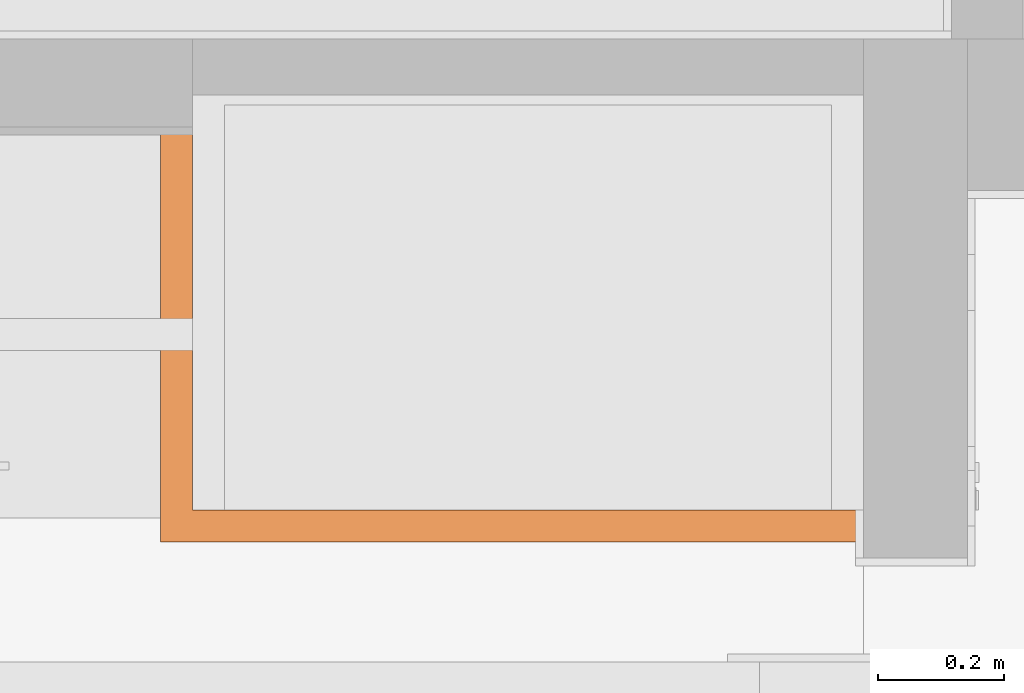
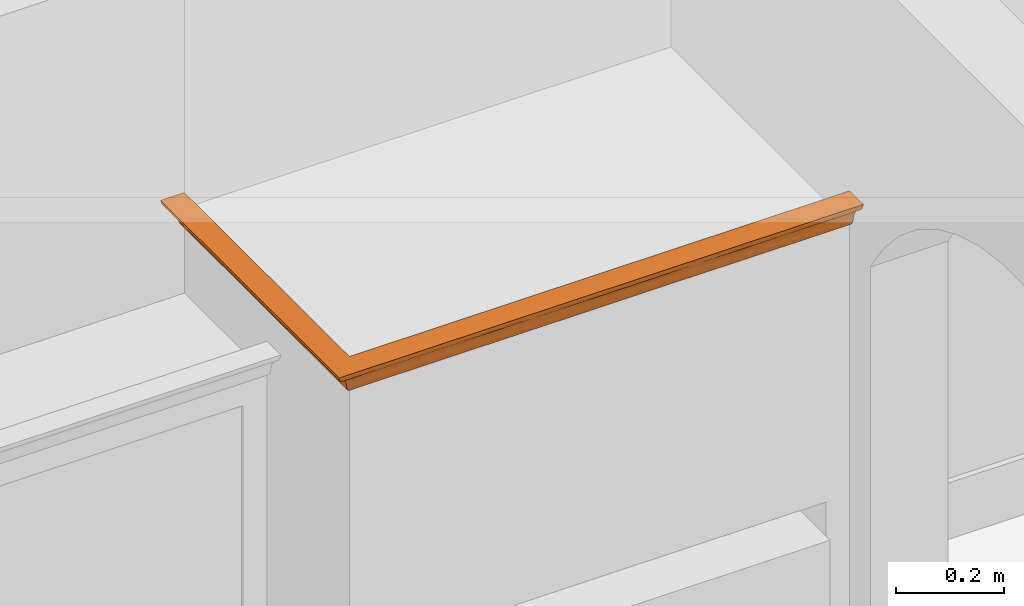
# One storey, part 79 of 81: 1 proxy.
"""IFC2X3 building model written with IfcOpenShell, lengths in feet."""

from ifc_helpers import new_model, entity, si_unit, converted_unit, derived_unit, direction, frame, origin, place, context, subcontext, project, spatial, faceted_brep, source, transform, mapped, material, type_object, type_shapes, element, save


model = new_model("IFC2X3")

# Units and contexts
model_context = context("Model", 3, precision=0.0001, world=origin(), true_north=direction((6.12303176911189e-17, 1.0)))
body_context = subcontext(model_context, "Body", "Model", "MODEL_VIEW")
ifc_project = project(units=[converted_unit("LENGTHUNIT", "FOOT", entity("IfcRatioMeasure", 0.3048), si_unit("LENGTHUNIT", "METRE"), dimensions=[1, 0, 0, 0, 0, 0, 0]), converted_unit("AREAUNIT", "SQUARE FOOT", entity("IfcRatioMeasure", 0.09290304), si_unit("AREAUNIT", "SQUARE_METRE"), dimensions=[2, 0, 0, 0, 0, 0, 0]), converted_unit("VOLUMEUNIT", "CUBIC FOOT", entity("IfcRatioMeasure", 0.028316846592), si_unit("VOLUMEUNIT", "CUBIC_METRE"), dimensions=[3, 0, 0, 0, 0, 0, 0]), converted_unit("PLANEANGLEUNIT", "DEGREE", entity("IfcRatioMeasure", 0.0174532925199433), si_unit("PLANEANGLEUNIT", "RADIAN"), dimensions=[0, 0, 0, 0, 0, 0, 0]), si_unit("MASSUNIT", "GRAM", prefix="KILO"), derived_unit("MASSDENSITYUNIT", [(si_unit("MASSUNIT", "GRAM", prefix="KILO"), 1), (si_unit("LENGTHUNIT", "METRE"), -3)]), derived_unit("MOMENTOFINERTIAUNIT", [(si_unit("LENGTHUNIT", "METRE"), 4)]), si_unit("TIMEUNIT", "SECOND"), si_unit("FREQUENCYUNIT", "HERTZ"), si_unit("THERMODYNAMICTEMPERATUREUNIT", "DEGREE_CELSIUS"), derived_unit("THERMALTRANSMITTANCEUNIT", [(si_unit("MASSUNIT", "GRAM", prefix="KILO"), 1), (si_unit("THERMODYNAMICTEMPERATUREUNIT", "KELVIN"), -1), (si_unit("TIMEUNIT", "SECOND"), -3)]), derived_unit("VOLUMETRICFLOWRATEUNIT", [(si_unit("LENGTHUNIT", "METRE"), 3), (si_unit("TIMEUNIT", "SECOND"), -1)]), si_unit("ELECTRICCURRENTUNIT", "AMPERE"), si_unit("ELECTRICVOLTAGEUNIT", "VOLT"), si_unit("POWERUNIT", "WATT"), si_unit("FORCEUNIT", "NEWTON"), si_unit("ILLUMINANCEUNIT", "LUX"), si_unit("LUMINOUSFLUXUNIT", "LUMEN"), si_unit("LUMINOUSINTENSITYUNIT", "CANDELA"), derived_unit("USERDEFINED", [(si_unit("MASSUNIT", "GRAM", prefix="KILO"), -1), (si_unit("LENGTHUNIT", "METRE"), -2), (si_unit("TIMEUNIT", "SECOND"), 3), (si_unit("LUMINOUSFLUXUNIT", "LUMEN"), 1)]), derived_unit("LINEARVELOCITYUNIT", [(si_unit("LENGTHUNIT", "METRE"), 1), (si_unit("TIMEUNIT", "SECOND"), -1)]), si_unit("PRESSUREUNIT", "PASCAL"), derived_unit("USERDEFINED", [(si_unit("LENGTHUNIT", "METRE"), -2), (si_unit("MASSUNIT", "GRAM", prefix="KILO"), 1), (si_unit("TIMEUNIT", "SECOND"), -2)]), derived_unit("LINEARFORCEUNIT", [(si_unit("MASSUNIT", "GRAM", prefix="KILO"), 1), (si_unit("LENGTHUNIT", "METRE"), 1), (si_unit("TIMEUNIT", "SECOND"), -2), (si_unit("LENGTHUNIT", "METRE"), -1)]), derived_unit("PLANARFORCEUNIT", [(si_unit("MASSUNIT", "GRAM", prefix="KILO"), 1), (si_unit("LENGTHUNIT", "METRE"), 1), (si_unit("TIMEUNIT", "SECOND"), -2), (si_unit("LENGTHUNIT", "METRE"), -2)])], contexts=[model_context])

# Site, building, storey
site_placement = place(None, origin())
site = spatial("IfcSite", under=ifc_project, at=site_placement, Name="Default", CompositionType="ELEMENT")
building_placement = place(site_placement, origin())
building = spatial("IfcBuilding", under=site, at=building_placement, CompositionType="ELEMENT")
storey_placement = place(building_placement, origin())
storey = spatial("IfcBuildingStorey", under=building, at=storey_placement, Name="First floor", CompositionType="ELEMENT", Elevation=0.0)

# Proxy
ifc_material = material(Name="Default New Material")
building_element_proxy_type = type_object("IfcBuildingElementProxyType", Name="Generic Models 34:Generic Models 28", PredefinedType="NOTDEFINED", material=ifc_material)
shared_shape = source(origin(), body_context, "Body", "Brep", [
    faceted_brep([(0.154525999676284, 2.17190049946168, 0.0179947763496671), (0.140565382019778, 2.17190049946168, 0.0344208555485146), (0.130772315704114, 2.17190049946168, 0.0536253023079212), (0.125675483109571, 2.17190049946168, 0.0745713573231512), (0.117492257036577, 2.17190049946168, 0.108201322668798), (0.10176898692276, 2.17190049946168, 0.139035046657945), (0.0793544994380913, 2.17190049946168, 0.165407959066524), (0.0514588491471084, 2.17190049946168, 0.185896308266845), (0.0340843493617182, 2.17190049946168, 0.198657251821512), (0.0201237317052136, 2.17190049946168, 0.215083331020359), (0.0103306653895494, 2.17190049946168, 0.234287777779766), (0.00523383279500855, 2.17190049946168, 0.255233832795), (0.171900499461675, 2.17190049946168, 0.255233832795), (0.171900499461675, 2.17190049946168, 0.00523383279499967), (3.67190049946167, 0.171900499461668, 0.00523383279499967), (3.67190049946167, 0.171900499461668, 0.255233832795), (3.67190049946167, 0.00523383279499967, 0.255233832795), (3.67190049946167, 0.0103306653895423, 0.234287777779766), (3.67190049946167, 0.0201237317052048, 0.215083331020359), (3.67190049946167, 0.0340843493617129, 0.198657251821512), (3.67190049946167, 0.0514588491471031, 0.185896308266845), (3.67190049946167, 0.0793544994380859, 0.165407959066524), (3.67190049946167, 0.101768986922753, 0.139035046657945), (3.67190049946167, 0.11749225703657, 0.108201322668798), (3.67190049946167, 0.125675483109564, 0.0745713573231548), (3.67190049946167, 0.130772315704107, 0.0536253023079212), (3.67190049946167, 0.140565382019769, 0.0344208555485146), (3.67190049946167, 0.154525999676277, 0.0179947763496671), (0.146689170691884, 0.412211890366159, 0.0262483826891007), (0.154525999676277, 0.154525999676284, 0.0179947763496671), (0.140565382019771, 0.140565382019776, 0.0344208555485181), (0.171900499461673, 1.86730195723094, 0.00523383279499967), (0.159274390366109, 1.71500289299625, 0.0138636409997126), (0.171900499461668, 0.562703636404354, 0.00523383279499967), (0.157214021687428, 0.583478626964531, 0.015586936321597), (0.15719830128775, 0.896596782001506, 0.0156004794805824), (0.135109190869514, 1.91205592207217, 0.0437376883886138), (0.171900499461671, 1.56270363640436, 0.00523383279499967), (0.134844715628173, 0.513102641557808, 0.044260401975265), (0.146232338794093, 0.734902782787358, 0.0267970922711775), (0.129443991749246, 1.75268181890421, 0.0574626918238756), (0.125675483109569, 1.75798510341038, 0.0745713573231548), (0.129199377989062, 1.4485269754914, 0.0582343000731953), (0.171900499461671, 1.25810531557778, 0.00523383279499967), (0.171900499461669, 0.953506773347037, 0.00523383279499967), (0.125675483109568, 0.734872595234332, 0.0745713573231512), (0.132705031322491, 1.05011708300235, 0.0488282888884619), (0.147067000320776, 1.79424866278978, 0.0258009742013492), (0.135109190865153, 1.59330771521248, 0.0437376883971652), (0.014667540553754, 1.89053000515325, 0.224400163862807), (0.0266253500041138, 1.78021655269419, 0.206463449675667), (0.0146675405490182, 1.55400278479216, 0.224400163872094), (0.125675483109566, 0.430274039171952, 0.0745713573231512), (0.130772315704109, 0.130772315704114, 0.0536253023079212), (0.148983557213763, 1.26330170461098, 0.02361623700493), (0.171900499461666, 0.171900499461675, 0.00523383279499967), (0.125675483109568, 1.03947069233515, 0.0745713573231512), (0.125675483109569, 1.34406924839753, 0.0745713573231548), (0.125675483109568, 1.39998506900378, 0.0745713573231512), (0.125675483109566, 0.125675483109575, 0.0745713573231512), (0.125675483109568, 0.762830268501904, 0.0745713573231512), (0.110529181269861, 1.56350760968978, 0.124076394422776), (0.0913303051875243, 1.75146019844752, 0.152874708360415), (0.120222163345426, 1.0814076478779, 0.100141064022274), (0.110052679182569, 0.780837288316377, 0.125002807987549), (0.120441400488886, 1.53672839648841, 0.0994207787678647), (0.0793544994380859, 0.079354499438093, 0.165407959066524), (0.0514588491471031, 0.0514588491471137, 0.185896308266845), (0.0700563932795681, 0.520712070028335, 0.173380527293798), (0.11749225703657, 0.117492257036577, 0.108201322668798), (0.101768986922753, 0.10176898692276, 0.139035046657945), (0.120055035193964, 0.594443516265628, 0.100681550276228), (0.090560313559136, 0.625433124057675, 0.153773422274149), (0.0745061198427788, 1.49425190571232, 0.169730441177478), (0.0514588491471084, 1.49763738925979, 0.185896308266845), (0.0514588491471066, 1.56270350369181, 0.185896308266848), (0.0514588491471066, 1.86730189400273, 0.185896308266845), (0.0913303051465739, 1.23704360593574, 0.152874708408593), (0.0733959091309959, 1.00364569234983, 0.170668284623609), (0.0514588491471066, 0.82337416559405, 0.185896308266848), (0.0514588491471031, 0.953506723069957, 0.185896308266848), (0.0514588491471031, 1.25810511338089, 0.185896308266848), (0.0514588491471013, 0.50248289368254, 0.185896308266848), (0.0262187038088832, 0.312037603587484, 0.206945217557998), (0.0340843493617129, 0.03408434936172, 0.198657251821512), (0.0201237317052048, 0.0201237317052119, 0.215083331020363), (0.0143937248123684, 0.406077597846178, 0.224941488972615), (0.0103306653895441, 0.0103306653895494, 0.234287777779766), (0.00523383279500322, 0.30983220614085, 0.255233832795), (0.0366299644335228, 0.491634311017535, 0.196372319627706), (0.0372594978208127, 0.817583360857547, 0.195832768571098), (0.0297505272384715, 1.23502228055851, 0.20296923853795), (0.0262226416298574, 0.950205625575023, 0.206940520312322), (0.0179141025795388, 1.18498354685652, 0.218562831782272), (0.02573845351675, 0.65154953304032, 0.20752285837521), (0.0119679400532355, 0.929934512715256, 0.23017640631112), (0.005233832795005, 1.69776369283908, 0.255233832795), (0.00805757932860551, 1.88853460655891, 0.241248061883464), (0.00849853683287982, 1.60269661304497, 0.239741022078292), (0.00523383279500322, 0.614430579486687, 0.255233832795), (0.038915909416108, 1.71500289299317, 0.19445865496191), (0.00968593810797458, 1.24976372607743, 0.236082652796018), (0.00523383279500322, 0.91902895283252, 0.255233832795), (0.00523383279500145, 0.00523383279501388, 0.255233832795), (0.005233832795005, 1.22362732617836, 0.255233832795), (0.309832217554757, 0.00523383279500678, 0.255233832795), (0.614430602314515, 0.00523383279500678, 0.255233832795), (0.919028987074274, 0.00523383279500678, 0.255233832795), (1.22362737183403, 0.00523383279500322, 0.255233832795), (1.53109718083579, 0.00523383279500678, 0.255233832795), (1.83856698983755, 0.00523383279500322, 0.255233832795), (2.14603679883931, 0.00523383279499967, 0.255233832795), (2.45350660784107, 0.00523383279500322, 0.255233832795), (2.75810499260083, 0.00523383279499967, 0.255233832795), (3.06270337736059, 0.00523383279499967, 0.255233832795), (3.36730211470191, 0.00523383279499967, 0.255233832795), (0.171900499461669, 0.171900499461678, 0.255233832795), (3.1435240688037, 0.147067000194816, 0.0258009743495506), (3.31095963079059, 0.135109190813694, 0.0437376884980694), (3.06270361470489, 0.171900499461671, 0.00523383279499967), (3.21500289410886, 0.15932241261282, 0.0138246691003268), (2.81638518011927, 0.156718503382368, 0.0160167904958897), (0.476498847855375, 0.171900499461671, 0.00523383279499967), (3.36730196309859, 0.171900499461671, 0.00523383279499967), (2.32638728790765, 0.130860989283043, 0.0533871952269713), (2.17614749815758, 0.125675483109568, 0.0745713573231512), (1.94989525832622, 0.133522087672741, 0.0470066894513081), (3.02356097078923, 0.133440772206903, 0.0471833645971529), (0.463691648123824, 0.14661600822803, 0.0263356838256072), (0.548538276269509, 0.134820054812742, 0.0443095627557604), (1.62142854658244, 0.132009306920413, 0.0504679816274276), (1.89878815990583, 0.125675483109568, 0.0745713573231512), (1.62142882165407, 0.125675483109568, 0.0745713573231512), (0.590002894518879, 0.158192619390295, 0.014755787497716), (1.10221167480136, 0.155849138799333, 0.0167859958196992), (1.39534246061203, 0.159103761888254, 0.0140025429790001), (1.43907823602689, 0.146302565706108, 0.0267121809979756), (3.06270400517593, 0.125675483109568, 0.0745713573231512), (3.21500289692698, 0.128829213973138, 0.0594490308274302), (3.3673022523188, 0.125675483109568, 0.0745713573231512), (1.1350935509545, 0.143547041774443, 0.0302072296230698), (0.829792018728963, 0.146098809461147, 0.0269591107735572), (1.05455715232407, 0.132074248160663, 0.0503111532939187), (0.73487231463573, 0.125675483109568, 0.0745713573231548), (0.430274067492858, 0.125675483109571, 0.0745713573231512), (1.80115668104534, 0.142334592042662, 0.0318611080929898), (1.37895814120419, 0.136566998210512, 0.040993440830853), (2.45350691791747, 0.171900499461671, 0.00523383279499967), (2.75810526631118, 0.171900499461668, 0.00523383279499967), (0.703506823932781, 0.171900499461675, 0.00523383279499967), (0.969309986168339, 0.171900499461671, 0.00523383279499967), (1.33737549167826, 0.129591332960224, 0.0570088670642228), (1.03947089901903, 0.125675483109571, 0.0745713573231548), (2.17614744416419, 0.140565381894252, 0.0344208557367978), (2.11185051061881, 0.156507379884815, 0.016201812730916), (2.45350717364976, 0.125675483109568, 0.0745713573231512), (2.72982651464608, 0.134048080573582, 0.0458866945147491), (2.12806964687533, 0.125675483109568, 0.0745713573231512), (2.46520773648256, 0.149891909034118, 0.0226274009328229), (1.2351131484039, 0.171900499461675, 0.00523383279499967), (1.5397114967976, 0.171900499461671, 0.00523383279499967), (2.75110619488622, 0.143963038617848, 0.0296570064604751), (2.47889559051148, 0.139006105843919, 0.0368402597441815), (0.897590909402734, 0.125675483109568, 0.0745713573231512), (1.6920108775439, 0.156549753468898, 0.0161645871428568), (1.84431003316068, 0.171900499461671, 0.00523383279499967), (2.14890856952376, 0.171900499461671, 0.00523383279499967), (1.51283027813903, 0.125675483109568, 0.0745713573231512), (1.34406948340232, 0.125675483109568, 0.0745713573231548), (2.75810575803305, 0.125675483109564, 0.0745713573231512), (2.8999850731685, 0.125675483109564, 0.0745713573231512), (0.527167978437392, 0.0907023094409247, 0.153608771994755), (1.66308301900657, 0.112574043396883, 0.119907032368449), (0.985340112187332, 0.11958765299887, 0.102155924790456), (0.734179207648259, 0.11008601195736, 0.12493851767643), (3.21497363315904, 0.121190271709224, 0.0968548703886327), (1.57346057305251, 0.0789672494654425, 0.165767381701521), (2.24763735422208, 0.0514588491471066, 0.185896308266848), (2.1489084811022, 0.0514588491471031, 0.185896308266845), (1.84431011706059, 0.0514588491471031, 0.185896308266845), (1.59528967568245, 0.0514588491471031, 0.185896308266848), (1.53971175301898, 0.0514588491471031, 0.185896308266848), (1.23511338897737, 0.0514588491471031, 0.185896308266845), (0.939199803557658, 0.0514588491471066, 0.185896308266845), (0.823374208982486, 0.0514588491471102, 0.185896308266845), (1.20534352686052, 0.109624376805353, 0.125822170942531), (2.75765404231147, 0.120393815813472, 0.0995782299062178), (3.21607661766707, 0.110529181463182, 0.124076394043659), (2.56238160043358, 0.0943703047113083, 0.149179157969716), (3.0402874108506, 0.0913303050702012, 0.152874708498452), (2.57962437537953, 0.072306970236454, 0.171570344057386), (3.0344032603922, 0.0723823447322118, 0.171508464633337), (0.643286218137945, 0.0514588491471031, 0.185896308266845), (0.356057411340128, 0.0514588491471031, 0.185896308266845), (3.36730193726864, 0.0514588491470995, 0.185896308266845), (1.05487944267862, 0.0899369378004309, 0.154490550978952), (2.18162500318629, 0.104475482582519, 0.134823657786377), (2.67235813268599, 0.110529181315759, 0.124076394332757), (2.20138181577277, 0.118023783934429, 0.106744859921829), (2.13666000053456, 0.0854415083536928, 0.159402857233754), (1.50340175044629, 0.0983421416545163, 0.143957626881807), (2.89998513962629, 0.0514588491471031, 0.185896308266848), (2.75810520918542, 0.0514588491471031, 0.185896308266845), (2.45350684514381, 0.0514588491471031, 0.185896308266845), (3.06270357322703, 0.0514588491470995, 0.185896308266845), (3.1435240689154, 0.0266253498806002, 0.206463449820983), (3.21500289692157, 0.00838756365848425, 0.24011150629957), (3.2150028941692, 0.0388807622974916, 0.194487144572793), (2.81638518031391, 0.0362768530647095, 0.196679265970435), (3.31095963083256, 0.0146675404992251, 0.224400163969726), (0.446899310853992, 0.0143653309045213, 0.224998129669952), (0.357615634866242, 0.0261539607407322, 0.207022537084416), (1.69517127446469, 0.00893188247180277, 0.238345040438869), (2.01793694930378, 0.0101154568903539, 0.234874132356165), (1.06623920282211, 0.0218861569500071, 0.212533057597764), (0.756584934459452, 0.0255908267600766, 0.207702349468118), (1.08715646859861, 0.0345032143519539, 0.198269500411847), (0.940463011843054, 0.0114491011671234, 0.231418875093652), (1.38966443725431, 0.0113512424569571, 0.231659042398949), (1.40063767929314, 0.0375756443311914, 0.195565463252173), (2.14603703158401, 0.0201237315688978, 0.215083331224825), (1.73881601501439, 0.0172658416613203, 0.219652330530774), (1.86090576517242, 0.0317734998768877, 0.200885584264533), (3.02356097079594, 0.0129991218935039, 0.227845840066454), (2.53316499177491, 0.0382170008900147, 0.195030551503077), (0.798004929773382, 0.0377354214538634, 0.19543128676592), (1.38413899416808, 0.0245312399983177, 0.209018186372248), (2.37052363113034, 0.0121142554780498, 0.229834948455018), (2.72982651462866, 0.0136064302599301, 0.22654916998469), (2.52092873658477, 0.0235926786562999, 0.21022603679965), (2.25692092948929, 0.0348523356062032, 0.197949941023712), (0.499671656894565, 0.0378782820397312, 0.19531183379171), (2.84117786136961, 0.0226727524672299, 0.211451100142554)], [[[0, 1, 2, 3, 4, 5, 6, 7, 8, 9, 10, 11, 12, 13]], [[14, 15, 16, 17, 18, 19, 20, 21, 22, 23, 24, 25, 26, 27]], [[28, 29, 30]], [[0, 31, 32]], [[33, 34, 35]], [[28, 34, 29]], [[36, 2, 1]], [[37, 32, 31]], [[28, 38, 39]], [[2, 40, 3]], [[41, 40, 42]], [[33, 35, 43, 44]], [[38, 45, 46]], [[36, 47, 48]], [[49, 50, 51]], [[40, 2, 36]], [[45, 38, 52]], [[47, 1, 0]], [[30, 53, 38]], [[48, 47, 54]], [[46, 39, 38]], [[54, 39, 46]], [[32, 54, 47]], [[32, 37, 54]], [[38, 53, 52]], [[29, 34, 55]], [[42, 46, 56]], [[42, 56, 57, 58, 41]], [[54, 46, 48]], [[0, 13, 31]], [[0, 32, 47]], [[53, 59, 52]], [[38, 28, 30]], [[34, 28, 39]], [[34, 39, 35]], [[34, 33, 55]], [[39, 54, 35]], [[35, 54, 43]], [[47, 36, 1]], [[40, 36, 48]], [[40, 48, 42]], [[40, 41, 3]], [[48, 46, 42]], [[46, 45, 60, 56]], [[54, 37, 43]], [[5, 61, 62]], [[61, 63, 64]], [[61, 5, 4]], [[65, 4, 3]], [[66, 67, 68]], [[64, 69, 70]], [[71, 60, 45, 52, 59]], [[70, 72, 64]], [[73, 74, 75, 76, 7]], [[61, 64, 77]], [[77, 64, 72]], [[62, 77, 73]], [[70, 66, 72]], [[78, 72, 68]], [[61, 65, 63]], [[62, 6, 5]], [[73, 78, 74]], [[63, 58, 57, 56, 60]], [[73, 77, 78]], [[71, 63, 60]], [[73, 7, 6]], [[77, 62, 61]], [[62, 73, 6]], [[78, 79, 80, 81, 74]], [[79, 78, 68]], [[78, 77, 72]], [[68, 67, 82, 79]], [[66, 68, 72]], [[65, 58, 63]], [[64, 63, 71]], [[71, 69, 64]], [[69, 71, 59]], [[65, 3, 41, 58]], [[65, 61, 4]], [[83, 84, 85]], [[86, 87, 88]], [[82, 89, 90]], [[51, 50, 91]], [[49, 10, 9]], [[92, 93, 91]], [[83, 86, 94]], [[84, 89, 67]], [[94, 86, 95]], [[96, 97, 98]], [[83, 89, 84]], [[49, 97, 10]], [[99, 86, 88]], [[86, 85, 87]], [[50, 9, 8]], [[50, 100, 91]], [[75, 100, 76]], [[101, 95, 102]], [[99, 95, 86]], [[95, 101, 93]], [[8, 76, 100]], [[10, 97, 11]], [[80, 90, 91]], [[90, 80, 79, 82]], [[91, 90, 92]], [[8, 7, 76]], [[8, 100, 50]], [[87, 103, 88]], [[86, 83, 85]], [[89, 83, 94]], [[89, 94, 90]], [[89, 82, 67]], [[92, 90, 94]], [[91, 75, 74, 81, 80]], [[94, 95, 92]], [[93, 92, 95]], [[95, 99, 102]], [[51, 91, 93]], [[98, 104, 96]], [[51, 93, 101]], [[50, 49, 9]], [[98, 97, 49]], [[98, 49, 51]], [[11, 97, 96]], [[51, 101, 98]], [[104, 98, 101]], [[75, 91, 100]], [[104, 101, 102]], [[11, 96, 104, 102, 99, 88, 103, 105, 106, 107, 108, 109, 110, 111, 112, 113, 114, 115, 16, 15, 116, 12]], [[12, 116, 55, 33, 44, 43, 37, 31, 13]], [[27, 26, 117]], [[118, 26, 25]], [[119, 120, 121]], [[117, 26, 118]], [[29, 55, 122]], [[27, 123, 14]], [[124, 125, 126]], [[118, 127, 117]], [[128, 129, 30]], [[130, 131, 132]], [[120, 27, 117]], [[29, 133, 128]], [[30, 29, 128]], [[129, 53, 30]], [[134, 135, 136]], [[137, 138, 139]], [[140, 141, 134]], [[142, 143, 129]], [[129, 144, 53]], [[127, 118, 138]], [[145, 146, 136]], [[121, 147, 148, 119]], [[142, 129, 141]], [[149, 150, 133, 122]], [[130, 132, 151]], [[141, 133, 134]], [[151, 152, 142]], [[153, 145, 154]], [[145, 126, 130]], [[25, 139, 138]], [[155, 124, 156]], [[126, 125, 157, 131]], [[153, 154, 158]], [[135, 159, 160]], [[122, 133, 29]], [[129, 128, 141]], [[27, 120, 123]], [[119, 123, 120]], [[121, 120, 117]], [[161, 117, 127]], [[158, 162, 153]], [[25, 24, 139]], [[144, 143, 163, 69, 59, 53]], [[127, 138, 137]], [[25, 138, 118]], [[131, 130, 126]], [[127, 156, 161]], [[144, 129, 143]], [[145, 136, 164]], [[159, 134, 150]], [[141, 128, 133]], [[150, 134, 133]], [[160, 164, 135]], [[140, 134, 136]], [[154, 164, 165]], [[164, 160, 165]], [[164, 154, 145]], [[154, 165, 166, 147]], [[158, 147, 121]], [[126, 145, 153]], [[146, 145, 130]], [[147, 158, 154]], [[161, 158, 121]], [[126, 153, 124]], [[152, 151, 132, 167, 168]], [[162, 124, 153]], [[127, 169, 156]], [[146, 130, 151]], [[142, 141, 140]], [[136, 135, 164]], [[159, 135, 134]], [[117, 161, 121]], [[162, 161, 156]], [[127, 137, 170, 169]], [[142, 152, 163, 143]], [[169, 155, 156]], [[146, 142, 140]], [[142, 146, 151]], [[140, 136, 146]], [[161, 162, 158]], [[124, 162, 156]], [[124, 155, 125]], [[66, 70, 171]], [[172, 173, 167]], [[174, 171, 70]], [[175, 170, 137, 139, 24]], [[176, 177, 178, 179, 180, 181, 182, 183, 184]], [[173, 185, 174]], [[186, 175, 187]], [[188, 189, 190]], [[21, 189, 22]], [[189, 187, 22]], [[21, 20, 191]], [[66, 184, 192, 193, 84, 67]], [[19, 194, 20]], [[171, 195, 184]], [[188, 196, 197]], [[23, 22, 187]], [[197, 186, 187]], [[69, 174, 70]], [[190, 189, 191]], [[197, 198, 186]], [[199, 177, 176]], [[195, 185, 200]], [[173, 174, 69]], [[195, 200, 176]], [[197, 196, 198]], [[23, 187, 175]], [[197, 187, 189]], [[23, 175, 24]], [[186, 170, 175]], [[186, 157, 125, 155, 169, 170]], [[157, 186, 198]], [[172, 185, 173]], [[172, 196, 200]], [[198, 196, 172]], [[199, 196, 188]], [[190, 199, 188]], [[189, 188, 197]], [[190, 201, 202, 203, 177]], [[199, 190, 177]], [[191, 201, 190]], [[66, 171, 184]], [[195, 171, 174]], [[191, 20, 194, 204, 201]], [[191, 189, 21]], [[200, 196, 199]], [[195, 176, 184]], [[199, 176, 200]], [[172, 200, 185]], [[172, 167, 198]], [[174, 185, 195]], [[198, 167, 132, 131, 157]], [[173, 163, 152, 168, 167]], [[163, 173, 69]], [[19, 18, 205]], [[114, 206, 115]], [[204, 207, 208]], [[205, 18, 209]], [[210, 85, 211]], [[110, 212, 213]], [[214, 215, 216]], [[211, 85, 84]], [[108, 217, 218]], [[207, 19, 205]], [[219, 182, 181]], [[210, 87, 85]], [[220, 221, 222]], [[209, 18, 17]], [[209, 223, 205]], [[217, 106, 210]], [[210, 105, 87]], [[223, 209, 206]], [[218, 217, 214]], [[224, 202, 208]], [[217, 210, 215]], [[225, 192, 184, 183]], [[221, 218, 226]], [[17, 115, 206]], [[112, 227, 228]], [[178, 222, 181, 180, 179]], [[228, 227, 229]], [[216, 183, 182]], [[217, 108, 107, 106]], [[230, 220, 222]], [[212, 221, 213]], [[193, 192, 231]], [[215, 210, 211]], [[219, 226, 216]], [[19, 207, 194]], [[204, 194, 207]], [[208, 207, 205]], [[228, 229, 232]], [[229, 220, 230]], [[17, 16, 115]], [[105, 103, 87]], [[223, 206, 114]], [[17, 206, 209]], [[231, 215, 211]], [[193, 231, 84]], [[84, 231, 211]], [[216, 215, 225]], [[214, 216, 226]], [[225, 215, 231]], [[192, 225, 231]], [[223, 228, 232]], [[105, 210, 106]], [[212, 109, 218]], [[221, 220, 213]], [[226, 222, 221]], [[222, 178, 230]], [[227, 213, 220]], [[227, 111, 213]], [[202, 224, 203]], [[224, 230, 203]], [[224, 229, 230]], [[232, 208, 205]], [[229, 227, 220]], [[223, 113, 228]], [[219, 222, 226]], [[218, 214, 226]], [[217, 215, 214]], [[208, 232, 229]], [[223, 232, 205]], [[182, 219, 216]], [[222, 219, 181]], [[109, 108, 218]], [[221, 212, 218]], [[212, 110, 109]], [[113, 223, 114]], [[113, 112, 228]], [[208, 202, 201, 204]], [[183, 216, 225]], [[111, 227, 112]], [[111, 110, 213]], [[230, 178, 177, 203]], [[229, 224, 208]], [[116, 15, 14, 123, 119, 148, 147, 166, 165, 160, 159, 150, 149, 122, 55]]]),
])
type_shapes(building_element_proxy_type, [shared_shape])
proxy_placement = place(storey_placement, frame((9.24476616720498, 30.7864328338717, 18.6562245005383)))
element("IfcBuildingElementProxy", 1, at=proxy_placement, inside=storey, type_object=building_element_proxy_type, material=ifc_material, Name="Generic Models 34:Generic Models 28", ObjectType="Generic Models 34:Generic Models 28", context=body_context, shape_type="MappedRepresentation", body=[
    mapped(shared_shape, transform((0.0, 0.0, 0.0), scale=1.0)),
])

save(model, "model.ifc")
